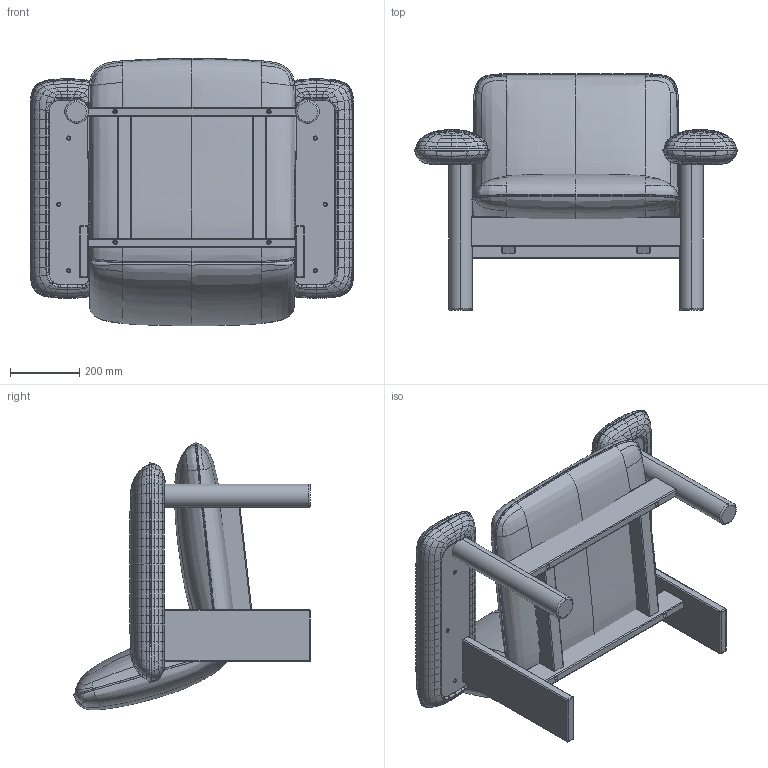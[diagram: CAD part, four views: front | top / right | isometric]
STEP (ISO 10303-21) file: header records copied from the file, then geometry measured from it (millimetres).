
FILE_DESCRIPTION (( 'STEP AP214' ), '1' );
FILE_NAME ('Brasilia Low Back Lounge Chair textile.STEP', '2024-07-02T07:37:34', ( '' ), ( '' ), 'SwSTEP 2.0', 'SolidWorks 2022', '' );
FILE_SCHEMA (( 'AUTOMOTIVE_DESIGN' ));
Length unit declared in the file: millimetre
Products named in the file (16): Brasilia Low Back Lounge Chair - joinery front; Brasilia Low Back Lounge Chair - leg front; Brasilia Low Back Lounge Chair - joinery side; MirrorBrasilia Low Back Lounge Chair - armrest 1; Brasilia Low Back Lounge Chair - armrest 1; Brasilia Sofa 2 - armrest upholstery; MirrorBrasilia Low Back Lounge Chair - armrest 2; Brasilia Low Back Lounge Chair - seat-back upholstery; MirrorBrasilia Sofa 2 - armrest upholstery; MirrorBrasilia Low Back Lounge Chair - leg back; MirrorBrasilia Low Back Lounge Chair - joinery side; Brasilia Low Back Lounge Chair - armrest 2; Brasilia Low Back Lounge Chair textile; Brasilia Low Back Lounge Chair - leg back; Brasilia Low Back Lounge Chair - joinery back; MirrorBrasilia Low Back Lounge Chair - leg front
Assembly tree (15 placements, depth 2):
  Brasilia Low Back Lounge Chair textile
    Brasilia Low Back Lounge Chair - leg front
    Brasilia Low Back Lounge Chair - leg back
    Brasilia Low Back Lounge Chair - joinery front
    Brasilia Low Back Lounge Chair - joinery back
    Brasilia Low Back Lounge Chair - joinery side
    Brasilia Low Back Lounge Chair - armrest 1
    Brasilia Low Back Lounge Chair - armrest 2
    Brasilia Low Back Lounge Chair - seat-back upholstery
    Brasilia Sofa 2 - armrest upholstery
    MirrorBrasilia Sofa 2 - armrest upholstery
    MirrorBrasilia Low Back Lounge Chair - leg front
    MirrorBrasilia Low Back Lounge Chair - leg back
    MirrorBrasilia Low Back Lounge Chair - joinery side
    MirrorBrasilia Low Back Lounge Chair - armrest 1
    MirrorBrasilia Low Back Lounge Chair - armrest 2
Bounding box: 936.52 x 685.53 x 774.3 mm (x, y, z)
Volume: 99723421.5 mm3; surface area: 3723848 mm2
Topology: 20 solids, 20 shells, 1736 faces, 3743 edges, 2039 vertices
Faces by surface type: bspline 1524, cylinder 108, plane 80, cone 12, sphere 8, torus 4
Entity records: 596922 total; most frequent: CARTESIAN_POINT 570478, ORIENTED_EDGE 7470, EDGE_CURVE 3735, B_SPLINE_CURVE_WITH_KNOTS 3173, VERTEX_POINT 2039, EDGE_LOOP 1772, FACE_OUTER_BOUND 1736, ADVANCED_FACE 1736
